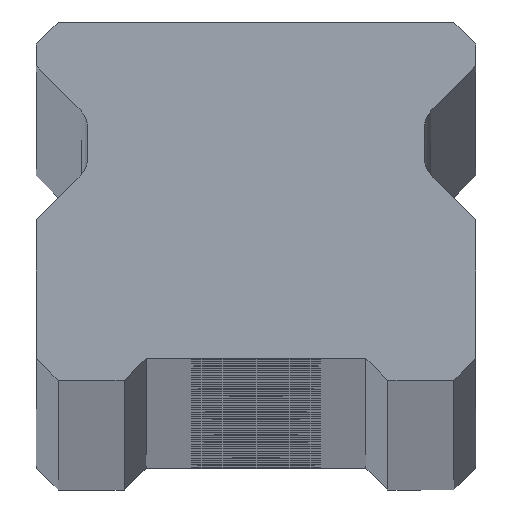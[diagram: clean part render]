
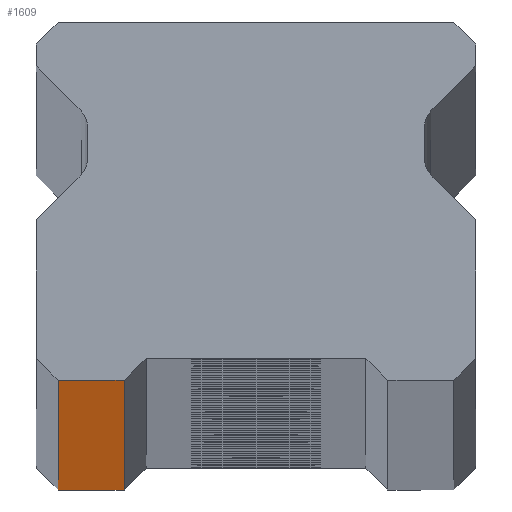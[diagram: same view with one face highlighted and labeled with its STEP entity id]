
A CAD part, top view. The second image highlights one B-rep face of the part: STEP entity #1609.
In plain terms, the highlighted planar face has unit normal (0, -1, 0).
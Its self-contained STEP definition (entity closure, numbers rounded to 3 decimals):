
#320 = LINE ( 'NONE', #5267, #6696 ) ;
#381 = ORIENTED_EDGE ( 'NONE', *, *, #1606, .T. ) ;
#614 = DIRECTION ( 'NONE',  ( -1., 0., 0. ) ) ;
#616 = CARTESIAN_POINT ( 'NONE',  ( -6., 0., 1430. ) ) ;
#930 = DIRECTION ( 'NONE',  ( 0., 0., -1. ) ) ;
#1099 = EDGE_CURVE ( 'NONE', #5944, #5638, #3083, .T. ) ;
#1606 = EDGE_CURVE ( 'NONE', #2184, #5638, #5586, .T. ) ;
#1609 = ADVANCED_FACE ( 'NONE', ( #8130 ), #3756, .F. ) ;
#1673 = VECTOR ( 'NONE', #1725, 1000. ) ;
#1725 = DIRECTION ( 'NONE',  ( 1., 0., 0. ) ) ;
#2146 = ORIENTED_EDGE ( 'NONE', *, *, #2549, .T. ) ;
#2184 = VERTEX_POINT ( 'NONE', #4567 ) ;
#2549 = EDGE_CURVE ( 'NONE', #3524, #2184, #3268, .T. ) ;
#2819 = CARTESIAN_POINT ( 'NONE',  ( -9., 0., -1430. ) ) ;
#2826 = EDGE_CURVE ( 'NONE', #5944, #3524, #320, .T. ) ;
#3083 = LINE ( 'NONE', #6613, #4087 ) ;
#3268 = LINE ( 'NONE', #7623, #1673 ) ;
#3344 = ORIENTED_EDGE ( 'NONE', *, *, #2826, .T. ) ;
#3524 = VERTEX_POINT ( 'NONE', #2819 ) ;
#3756 = PLANE ( 'NONE',  #4179 ) ;
#4087 = VECTOR ( 'NONE', #7397, 1000. ) ;
#4179 = AXIS2_PLACEMENT_3D ( 'NONE', #8270, #4390, #614 ) ;
#4208 = CARTESIAN_POINT ( 'NONE',  ( -9., 0., 1430. ) ) ;
#4390 = DIRECTION ( 'NONE',  ( 0., 1., 0. ) ) ;
#4567 = CARTESIAN_POINT ( 'NONE',  ( -6., 0., -1430. ) ) ;
#5267 = CARTESIAN_POINT ( 'NONE',  ( -9., 0., 1430. ) ) ;
#5586 = LINE ( 'NONE', #7655, #8227 ) ;
#5638 = VERTEX_POINT ( 'NONE', #616 ) ;
#5944 = VERTEX_POINT ( 'NONE', #4208 ) ;
#6613 = CARTESIAN_POINT ( 'NONE',  ( 10., 0., 1430. ) ) ;
#6696 = VECTOR ( 'NONE', #930, 1000. ) ;
#6972 = DIRECTION ( 'NONE',  ( 0., 0., 1. ) ) ;
#7085 = ORIENTED_EDGE ( 'NONE', *, *, #1099, .F. ) ;
#7397 = DIRECTION ( 'NONE',  ( 1., 0., 0. ) ) ;
#7498 = EDGE_LOOP ( 'NONE', ( #2146, #381, #7085, #3344 ) ) ;
#7623 = CARTESIAN_POINT ( 'NONE',  ( 10., 0., -1430. ) ) ;
#7655 = CARTESIAN_POINT ( 'NONE',  ( -6., 0., -1430. ) ) ;
#8130 = FACE_OUTER_BOUND ( 'NONE', #7498, .T. ) ;
#8227 = VECTOR ( 'NONE', #6972, 1000. ) ;
#8270 = CARTESIAN_POINT ( 'NONE',  ( 10., 0., 1430. ) ) ;
